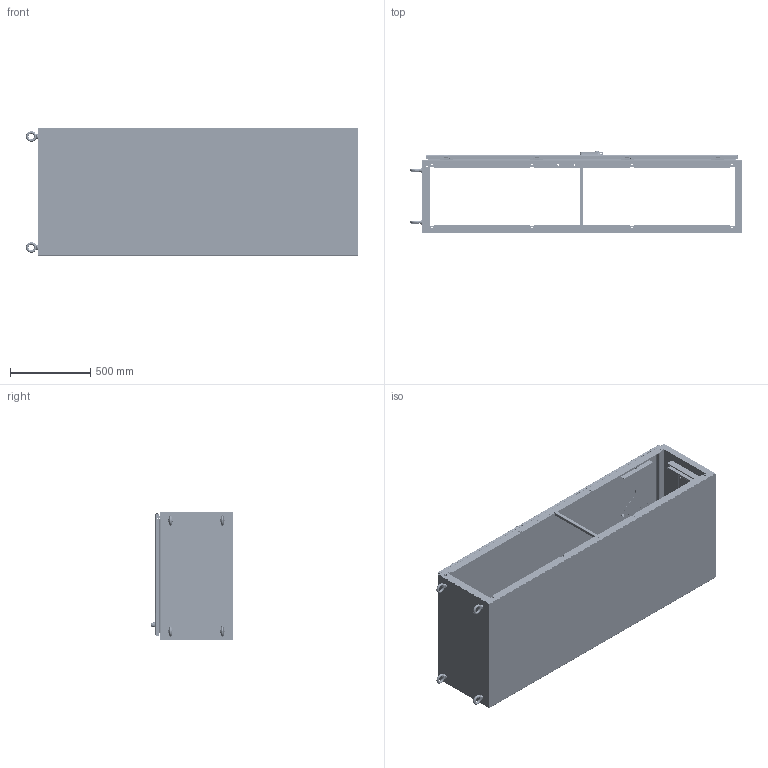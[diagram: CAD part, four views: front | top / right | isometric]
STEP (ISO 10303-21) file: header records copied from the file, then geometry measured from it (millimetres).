
FILE_DESCRIPTION((''),'2;1');
FILE_NAME('MODEL-255_ASM','2021-08-02T11:22:59',('mikek'),('SAGINAW CONTROL & ENGINEERING'),'CREO PARAMETRIC BY PTC INC, 2017260','CREO PARAMETRIC BY PTC INC, 2017260','');
FILE_SCHEMA(('AUTOMOTIVE_DESIGN { 1 0 10303 214 1 1 1 1 }'));
Length unit declared in the file: inch
Products named in the file (61): MODEL-255-R-SD; MODEL-255-L-SD; MODEL-255-TP; MODEL-255-BTM; MODEL-255-DR; 100837; 111267; 100882; 129332-HANDLE-BODY; 129332-HANDLE-SHAFT-O-RING; 129332-HANDLE; 129332-HANDLE-CAP; 129332-HANDLE-SHAFT; 129332-HANDLE-PIN; 129332-HANDLE_ASM; 129332-BODY-CAP; 129332-HANDLE-STOP; 129332-CAM-ADAPTER; 129332-LOCK-NUT; 129332-NUT; 129332_ASM; 102237; 100030; 102237_ASM; MODEL-255-ROD-UPR; 128146; 128145; 128144; 102482; MODEL-255-ROD-UPR_ASM; 128143; 112504; MODEL-255-ROD-LWR; MODEL-255-ROD-LWR_ASM; MODEL-255-GSKT; 128257; 126397; 128257_ASM; 126393; 102483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
Assembly tree (123 placements, depth 5):
  MODEL-255_ASM
    MODEL-255-R-SD
    MODEL-255-L-SD
    MODEL-255-TP
    MODEL-255-BTM
    MODEL-255-DOOR-ASSY_ASM
      MODEL-255-DR
      100837  x5
      111267
      100882  x12
      129332_ASM
        129332-HANDLE-BODY
        129332-HANDLE_ASM
          129332-HANDLE-SHAFT-O-RING
          129332-HANDLE
          129332-HANDLE-CAP
          129332-HANDLE-SHAFT
          129332-HANDLE-PIN
        129332-BODY-CAP
        129332-HANDLE-STOP
        129332-CAM-ADAPTER
        129332-LOCK-NUT
        129332-NUT  x2
      102237_ASM
        102237
        100030  x2
      MODEL-255-ROD-UPR_ASM
        MODEL-255-ROD-UPR
        128146
        128145
        128144
        102482  x2
      128143  x2
      112504  x2
      MODEL-255-ROD-LWR_ASM
        MODEL-255-ROD-LWR
        128146
        128145
        128144
        102482  x2
      MODEL-255-GSKT
      128257_ASM  x4
        128257
        126397
      126393  x4
      102483  x4
      101369_ASM  x4
        101369
        101369-STUD
      101221  x4
    100064  x5
    MODEL-255-EBS  x2
    MODEL-255-B22  x4
    102278  x2
    103300_ASM  x4
      100834
      109064
      114505
    102297
    100882  x8
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Bounding box: 2074.9 x 511.82 x 804.01 mm (x, y, z)
Volume: 15099279.2 mm3; surface area: 11068649.2 mm2
Topology: 128 solids, 128 shells, 12683 faces, 33584 edges, 21099 vertices
Faces by surface type: plane 4309, bspline 3831, cylinder 3199, torus 653, cone 392, sphere 269, extrusion 30
Entity records: 260286 total; most frequent: CARTESIAN_POINT 104917, ORIENTED_EDGE 23866, DIRECTION 21186, PRESENTATION_STYLE_ASSIGNMENT 11974, STYLED_ITEM 11974, EDGE_CURVE 11933, CURVE_STYLE 11921, AXIS2_PLACEMENT_3D 7938
